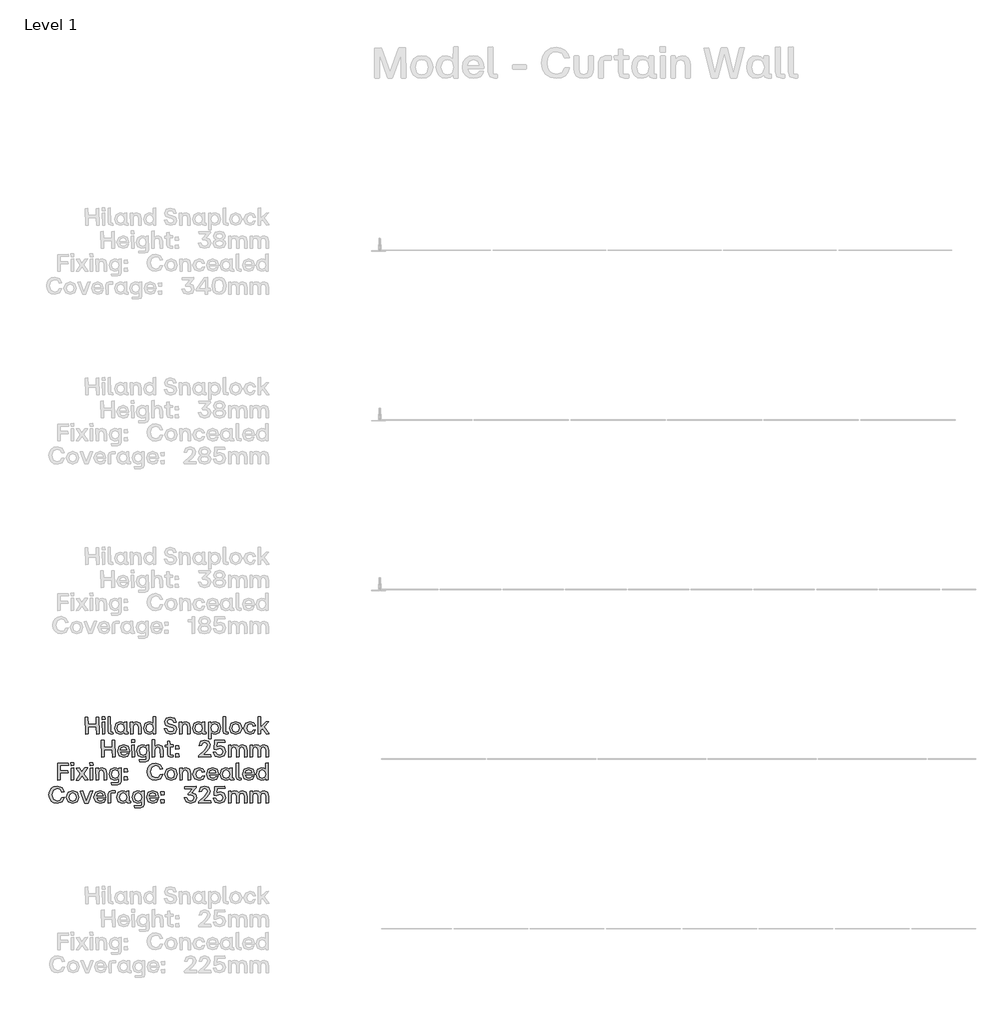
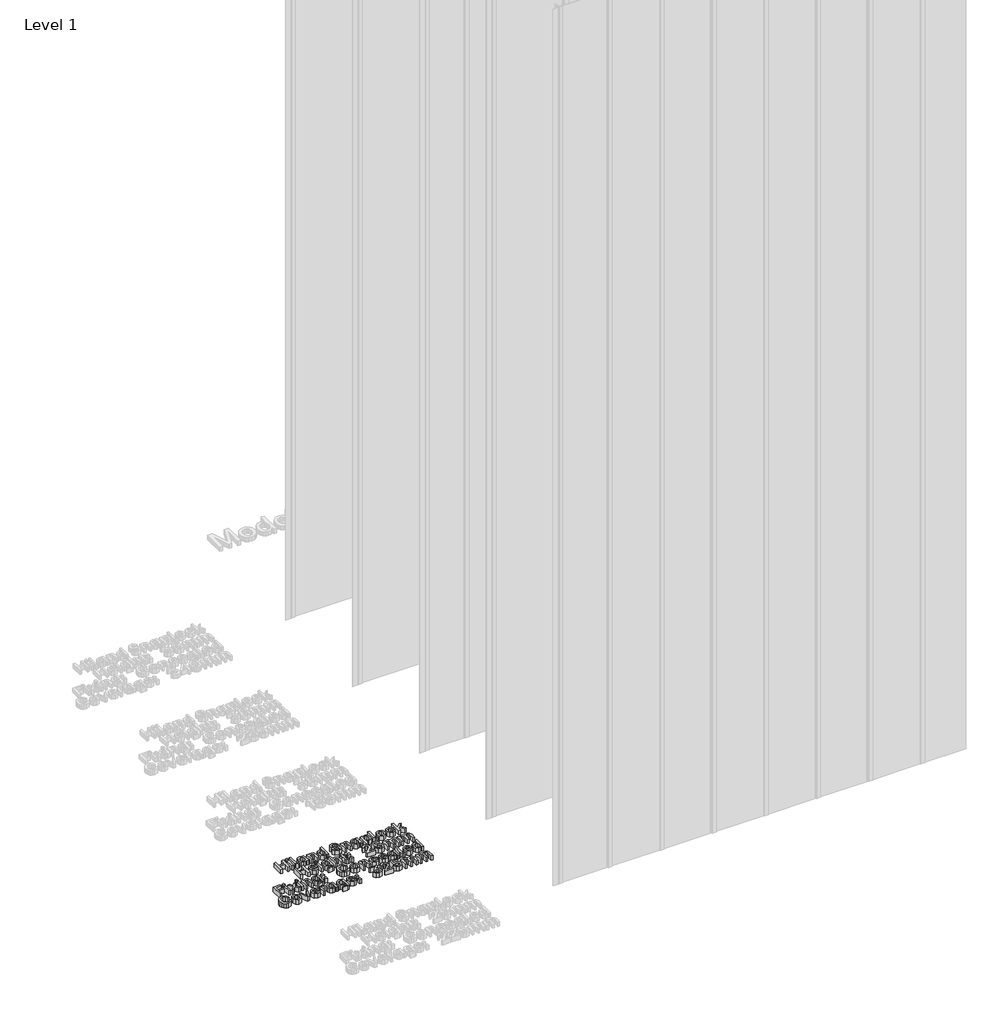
# One storey, part 6 of 64: 1 proxy.
"""IFC4 building model written with IfcOpenShell, lengths in millimetres."""

from ifc_helpers import new_model, si_unit, origin, origin_with_axes, place, context, project, spatial, polyline, outline, extrude, element, save

model = new_model("IFC4")

# Units and contexts
model_context = context("Model", 3, world=origin())
ifc_project = project(units=[si_unit("LENGTHUNIT", "METRE", prefix="MILLI")], contexts=[model_context])

# Site, building, storey
site = spatial("IfcSite", under=ifc_project)
building = spatial("IfcBuilding", under=site)
storey = spatial("IfcBuildingStorey", under=building, Name="Level 1", Elevation=0.0)

# Proxy
placement = place(None, origin())
element("IfcBuildingElementProxy", 1, Name="50mm", ObjectType="50mm", at=placement, inside=storey, context=model_context, shape_type="SweptSolid", body=[
    extrude(outline(polyline([(-811.1721134, -8433.5188866), (-811.8694452, -8411.5808277), (-835.7181932, -8411.5808277), (-835.7181932, -8432.8215548), (-843.2214836, -8433.5188866), (-843.9467087, -8384.2454206), (-836.457365, -8383.5201955), (-835.7181932, -8404.6075096), (-811.8694452, -8404.6075096), (-811.8694452, -8384.2454206), (-804.3801015, -8383.5201955), (-803.6827697, -8432.8215548), (-811.1721134, -8433.5188866)])), origin_with_axes(), (0.0, 0.0, 1.0), 20.0),
    extrude(outline(polyline([(-793.585405, -8433.5188866), (-794.3106301, -8397.8154977), (-787.1002191, -8397.1181659), (-786.4028873, -8432.8215548), (-793.585405, -8433.5188866)])), origin_with_axes(), (0.0, 0.0, 1.0), 20.0),
    extrude(outline(polyline([(-794.5198296, -8390.4516737), (-794.8684955, -8382.4044646), (-786.4726205, -8381.6652929), (-785.7334488, -8390.1030078), (-794.5198296, -8390.4516737)])), origin_with_axes(), (0.0, 0.0, 1.0), 20.0),
    extrude(outline(polyline([(-767.0031162, -8433.5188866), (-774.7016595, -8430.8690257), (-777.3515204, -8423.1565359), (-777.3515204, -8382.8228637), (-770.1411094, -8382.083692), (-769.4437776, -8427.2429003), (-762.7772854, -8427.2429003), (-762.0799536, -8432.8215548), (-767.0031162, -8433.5188866)])), origin_with_axes(), (0.0, 0.0, 1.0), 20.0),
    extrude(outline(polyline([(-741.9131175, -8433.9372857), (-753.6840786, -8428.8955767), (-758.0633224, -8415.3882594), (-753.6840786, -8401.7484491), (-741.9131175, -8396.6579269), (-735.2954386, -8398.2617901), (-730.3095161, -8402.6549805), (-729.9887435, -8397.8154977), (-722.8062258, -8397.1181659), (-722.0810007, -8427.2429003), (-718.1341027, -8427.2429003), (-717.4367709, -8432.8215548), (-723.4338245, -8433.5188866), (-728.0885143, -8432.2113895), (-729.6400776, -8428.288898), (-734.9955859, -8432.3334225), (-741.9131175, -8433.9372857)]), holes=[polyline([(-750.0021666, -8415.3882594), (-747.2477059, -8424.2792401), (-739.7234956, -8427.521833), (-732.3596717, -8424.2931867), (-729.7098108, -8415.3882594), (-732.3805916, -8406.392679), (-739.7234956, -8403.1152195), (-747.2477059, -8406.392679), (-750.0021666, -8415.3882594)])]), origin_with_axes(), (0.0, 0.0, 1.0), 20.0),
    extrude(outline(polyline([(-710.5750258, -8433.5188866), (-711.3002509, -8397.8154977), (-704.4385058, -8397.1181659), (-703.741174, -8402.6549805), (-698.5774319, -8398.1571903), (-691.9562663, -8396.6579269), (-682.3958472, -8400.8419178), (-679.083521, -8413.0870644), (-679.083521, -8432.8215548), (-686.3078786, -8433.5188866), (-687.0331037, -8413.0870644), (-688.9856328, -8405.7092939), (-695.1570194, -8403.3941522), (-701.3841925, -8405.7441604), (-703.3925081, -8413.0870644), (-703.3925081, -8432.8215548), (-710.5750258, -8433.5188866)])), origin_with_axes(), (0.0, 0.0, 1.0), 20.0),
    extrude(outline(polyline([(-656.2249842, -8433.9372857), (-667.9959452, -8428.8955767), (-672.375189, -8415.3882594), (-667.9959452, -8401.7484491), (-656.2249842, -8396.6579269), (-649.6073052, -8398.2617901), (-644.6213828, -8402.6549805), (-644.3006101, -8382.8228637), (-637.1180924, -8382.083692), (-636.3928674, -8432.8215548), (-643.2546124, -8433.5188866), (-643.9519442, -8428.0099653), (-649.3074526, -8432.3334225), (-656.2249842, -8433.9372857)]), holes=[polyline([(-664.3140332, -8415.3882594), (-661.5595725, -8424.2792401), (-654.0353623, -8427.521833), (-646.6715383, -8424.2931867), (-644.0216774, -8415.3882594), (-646.6924583, -8406.392679), (-654.0353623, -8403.1152195), (-661.5595725, -8406.392679), (-664.3140332, -8415.3882594)])]), origin_with_axes(), (0.0, 0.0, 1.0), 20.0),
    extrude(outline(polyline([(-592.2378169, -8433.9372857), (-605.8218406, -8429.823028), (-611.8049476, -8418.1078535), (-604.4411236, -8417.2989486), (-600.2780527, -8424.9417053), (-592.2378169, -8427.1034339), (-585.2854187, -8425.1160383), (-582.7959441, -8419.6001436), (-584.5183537, -8415.0186736), (-590.2852878, -8412.7383985), (-596.8820467, -8411.5808277), (-607.3629439, -8406.8180514), (-610.8565763, -8397.4668318), (-606.3797061, -8386.9022548), (-593.8835199, -8383.1017964), (-581.2897074, -8386.951068), (-575.6831596, -8397.8154977), (-583.0051436, -8398.610456), (-587.0287482, -8391.8672573), (-593.8835199, -8389.9635415), (-600.417519, -8391.706871), (-602.6699008, -8396.7973933), (-600.6615852, -8401.6299027), (-594.3716522, -8404.1612172), (-587.8167332, -8405.3048414), (-577.7193685, -8409.8932847), (-574.5953219, -8419.4606772), (-579.2883651, -8430.1019607), (-592.2378169, -8433.9372857)])), origin_with_axes(), (0.0, 0.0, 1.0), 20.0),
    extrude(outline(polyline([(-565.9763007, -8433.5188866), (-566.7015258, -8397.8154977), (-559.8397808, -8397.1181659), (-559.1424489, -8402.6549805), (-553.9787069, -8398.1571903), (-547.3575413, -8396.6579269), (-537.7971221, -8400.8419178), (-534.484796, -8413.0870644), (-534.484796, -8432.8215548), (-541.7091536, -8433.5188866), (-542.4343787, -8413.0870644), (-544.3869077, -8405.7092939), (-550.5582943, -8403.3941522), (-556.7854674, -8405.7441604), (-558.793783, -8413.0870644), (-558.793783, -8432.8215548), (-565.9763007, -8433.5188866)])), origin_with_axes(), (0.0, 0.0, 1.0), 20.0),
    extrude(outline(polyline([(-511.6262591, -8433.9372857), (-523.3972201, -8428.8955767), (-527.7764639, -8415.3882594), (-523.3972201, -8401.7484491), (-511.6262591, -8396.6579269), (-505.0085802, -8398.2617901), (-500.0226577, -8402.6549805), (-499.7018851, -8397.8154977), (-492.5193674, -8397.1181659), (-491.7941423, -8427.2429003), (-487.8472442, -8427.2429003), (-487.1499124, -8432.8215548), (-493.146966, -8433.5188866), (-497.8016559, -8432.2113895), (-499.3532192, -8428.288898), (-504.7087275, -8432.3334225), (-511.6262591, -8433.9372857)]), holes=[polyline([(-519.7153081, -8415.3882594), (-516.9608475, -8424.2792401), (-509.4366372, -8427.521833), (-502.0728132, -8424.2931867), (-499.4229523, -8415.3882594), (-502.0937332, -8406.392679), (-509.4366372, -8403.1152195), (-516.9608475, -8406.392679), (-519.7153081, -8415.3882594)])]), origin_with_axes(), (0.0, 0.0, 1.0), 20.0),
    extrude(outline(polyline([(-480.2881673, -8447.0750171), (-481.0133924, -8397.8154977), (-474.1516474, -8397.1181659), (-473.4543156, -8402.5852473), (-468.0988072, -8398.2617901), (-461.1812756, -8396.6579269), (-449.4103146, -8401.7135826), (-445.0310708, -8415.2487931), (-449.4103146, -8428.8607101), (-461.1812756, -8433.9372857), (-467.7989545, -8432.3334225), (-472.784877, -8427.9402321), (-473.1056497, -8446.3776853), (-480.2881673, -8447.0750171)]), holes=[polyline([(-473.3845824, -8415.2487931), (-470.7138015, -8424.2443735), (-463.3708975, -8427.521833), (-455.8466872, -8424.2443735), (-453.0922266, -8415.2487931), (-455.8466872, -8406.3578124), (-463.3708975, -8403.1152195), (-470.7347215, -8406.3368925), (-473.3845824, -8415.2487931)])]), origin_with_axes(), (0.0, 0.0, 1.0), 20.0),
    extrude(outline(polyline([(-427.8209216, -8433.5188866), (-435.5194648, -8430.8690257), (-438.1693257, -8423.1565359), (-438.1693257, -8382.8228637), (-430.9589148, -8382.083692), (-430.261583, -8427.2429003), (-423.5950908, -8427.2429003), (-422.897759, -8432.8215548), (-427.8209216, -8433.5188866)])), origin_with_axes(), (0.0, 0.0, 1.0), 20.0),
    extrude(outline(polyline([(-400.6807674, -8433.9372857), (-413.8394187, -8428.8118969), (-418.8811278, -8415.3882594), (-413.8254721, -8401.8530489), (-400.6807674, -8396.6579269), (-387.410543, -8401.8530489), (-382.3409407, -8415.3882594), (-387.410543, -8428.8118969), (-400.6807674, -8433.9372857)]), holes=[polyline([(-410.819972, -8415.3882594), (-408.1212979, -8424.2931867), (-400.6807674, -8427.521833), (-393.1426105, -8424.2792401), (-390.3881498, -8415.3882594), (-393.1286638, -8406.392679), (-400.6807674, -8403.1152195), (-408.1212979, -8406.392679), (-410.819972, -8415.3882594)])]), origin_with_axes(), (0.0, 0.0, 1.0), 20.0),
    extrude(outline(polyline([(-358.5898191, -8433.9372857), (-371.9228034, -8428.8955767), (-376.9296458, -8415.3882594), (-371.8530702, -8401.8530489), (-358.5898191, -8396.6579269), (-347.5161898, -8400.0957727), (-342.3001479, -8409.1820063), (-349.3153059, -8409.9490713), (-352.8856448, -8404.6493495), (-358.5898191, -8403.1152195), (-366.1488959, -8406.392679), (-368.86849, -8415.3882594), (-366.1349493, -8424.3141067), (-358.5898191, -8427.521833), (-352.7113119, -8426.0574362), (-349.733705, -8421.3155799), (-342.6488138, -8420.6461413), (-347.3069903, -8430.4994399), (-358.5898191, -8433.9372857)])), origin_with_axes(), (0.0, 0.0, 1.0), 20.0),
    extrude(outline(polyline([(-333.9042728, -8433.5188866), (-334.6294979, -8382.8228637), (-327.4190869, -8382.083692), (-326.7217551, -8412.8778649), (-311.4780817, -8397.4668318), (-303.5703389, -8397.1181659), (-316.2896712, -8412.0410667), (-302.2035685, -8432.6402485), (-309.8463252, -8433.5188866), (-321.5614997, -8417.2292154), (-326.7217551, -8422.2918444), (-326.7217551, -8432.8215548), (-333.9042728, -8433.5188866)])), origin_with_axes(), (0.0, 0.0, 1.0), 20.0),
    extrude(outline(polyline([(-763.8651231, -8501.3705811), (-764.5624549, -8479.4325222), (-788.4112029, -8479.4325222), (-788.4112029, -8500.6732493), (-795.9144933, -8501.3705811), (-796.6397184, -8452.0971151), (-789.1503747, -8451.37189), (-788.4112029, -8472.459204), (-764.5624549, -8472.459204), (-764.5624549, -8452.0971151), (-757.0731112, -8451.37189), (-756.3757794, -8500.6732493), (-763.8651231, -8501.3705811)])), origin_with_axes(), (0.0, 0.0, 1.0), 20.0),
    extrude(outline(polyline([(-730.7279152, -8501.7889802), (-744.1306327, -8496.7472711), (-749.1374751, -8483.2399539), (-744.1515527, -8469.586197), (-730.7279152, -8464.5096214), (-718.447902, -8469.5164638), (-713.9501118, -8483.1702207), (-713.9501118, -8485.0809099), (-741.0065862, -8485.8200816), (-737.9383262, -8492.8631329), (-730.7279152, -8495.3735275), (-724.9400612, -8494.0974102), (-721.9415344, -8490.520098), (-714.8566431, -8489.9343393), (-719.5148197, -8498.6998002), (-730.7279152, -8501.7889802)]), holes=[polyline([(-740.936853, -8480.0322275), (-721.7323348, -8480.0322275), (-724.3752224, -8473.3866554), (-730.7279152, -8470.966914), (-737.8197798, -8473.2681089), (-740.936853, -8480.0322275)])]), origin_with_axes(), (0.0, 0.0, 1.0), 20.0),
    extrude(outline(polyline([(-707.0465268, -8458.3033682), (-707.3951927, -8450.2561591), (-698.9993177, -8449.5169873), (-698.2601459, -8457.9547023), (-707.0465268, -8458.3033682)])), origin_with_axes(), (0.0, 0.0, 1.0), 20.0),
    extrude(outline(polyline([(-706.1121022, -8501.3705811), (-706.8373273, -8465.6671922), (-699.6269163, -8464.9698603), (-698.9295845, -8500.6732493), (-706.1121022, -8501.3705811)])), origin_with_axes(), (0.0, 0.0, 1.0), 20.0),
    extrude(outline(polyline([(-684.4390294, -8514.9267115), (-685.1782011, -8509.348057), (-663.937474, -8508.6507252), (-663.937474, -8495.7919266), (-669.2441691, -8500.185117), (-675.8618481, -8501.7889802), (-687.6328091, -8496.7124045), (-692.0120529, -8483.1004875), (-687.6328091, -8469.565277), (-675.8618481, -8464.5096214), (-668.9443165, -8466.1134845), (-663.8677409, -8470.4369418), (-663.5888081, -8465.6671922), (-656.7549563, -8464.9698603), (-656.0297313, -8504.9269733), (-658.609859, -8512.3675038), (-666.0294695, -8514.9267115), (-684.4390294, -8514.9267115)]), holes=[polyline([(-683.9508971, -8483.1004875), (-681.1964364, -8492.0960679), (-673.6722262, -8495.3735275), (-666.3293222, -8492.0960679), (-663.6585413, -8483.1004875), (-666.3084022, -8474.1885869), (-673.6722262, -8470.966914), (-681.1964364, -8474.2095069), (-683.9508971, -8483.1004875)])]), origin_with_axes(), (0.0, 0.0, 1.0), 20.0),
    extrude(outline(polyline([(-646.3089258, -8501.3705811), (-647.0341508, -8450.6745581), (-639.8237399, -8449.9353864), (-639.1264081, -8470.2277422), (-634.0393725, -8465.9391516), (-627.6901663, -8464.5096214), (-618.1297471, -8468.6936122), (-614.817421, -8480.9387589), (-614.817421, -8500.6732493), (-622.0417786, -8501.3705811), (-622.7670037, -8480.9387589), (-624.7195328, -8473.5609883), (-630.8909193, -8471.2458467), (-637.1180924, -8473.5958549), (-639.1264081, -8480.9387589), (-639.1264081, -8500.6732493), (-646.3089258, -8501.3705811)])), origin_with_axes(), (0.0, 0.0, 1.0), 20.0),
    extrude(outline(polyline([(-591.540485, -8501.3705811), (-599.2529749, -8498.7207202), (-601.9028358, -8491.0082303), (-601.9028358, -8471.2458467), (-608.109089, -8471.2458467), (-608.834314, -8465.6671922), (-601.9028358, -8464.9698603), (-601.9028358, -8454.9561755), (-594.6784782, -8454.2309504), (-593.9811464, -8464.9698603), (-585.1947655, -8464.9698603), (-584.4695404, -8470.506675), (-593.9811464, -8471.2458467), (-593.9811464, -8495.0945947), (-585.1947655, -8495.0945947), (-584.4695404, -8500.6732493), (-591.540485, -8501.3705811)])), origin_with_axes(), (0.0, 0.0, 1.0), 20.0),
    extrude(outline(polyline([(-577.0638766, -8477.7310326), (-577.7612084, -8468.1078535), (-568.2774957, -8467.3686818), (-567.5522706, -8477.0337007), (-577.0638766, -8477.7310326)])), origin_with_axes(), (0.0, 0.0, 1.0), 20.0),
    extrude(outline(polyline([(-577.4125425, -8501.0219152), (-577.7612084, -8491.747402), (-568.2774957, -8491.0082303), (-567.5522706, -8500.6732493), (-577.4125425, -8501.0219152)])), origin_with_axes(), (0.0, 0.0, 1.0), 20.0),
    extrude(outline(polyline([(-509.5761036, -8501.3705811), (-510.3013286, -8496.5868848), (-492.9377665, -8480.590093), (-485.7901154, -8472.6753769), (-483.8027197, -8465.3882594), (-485.783142, -8459.7084918), (-491.7244091, -8457.8152359), (-498.5931275, -8459.8932847), (-501.4452146, -8466.4621504), (-508.8787717, -8467.1594822), (-504.2903284, -8454.9631488), (-491.7244091, -8450.9534909), (-479.8976615, -8454.8236824), (-475.5742043, -8465.3882594), (-478.2589318, -8475.1648515), (-487.4288451, -8485.5690422), (-496.8846645, -8494.0764903), (-474.1516474, -8494.355423), (-473.4543156, -8500.6732493), (-509.5761036, -8501.3705811)])), origin_with_axes(), (0.0, 0.0, 1.0), 20.0),
    extrude(outline(polyline([(-448.1969572, -8501.7889802), (-461.3974485, -8498.0931215), (-467.2062225, -8487.3821049), (-459.8423985, -8486.5871466), (-455.634001, -8493.0200326), (-448.1969572, -8494.9551284), (-440.7912934, -8492.2704009), (-438.197219, -8484.6625108), (-440.7773467, -8477.3614467), (-448.3364236, -8474.8719721), (-458.6987744, -8478.8049235), (-463.5382572, -8478.5259908), (-462.4922594, -8452.0971151), (-432.8556573, -8451.37189), (-432.1304322, -8457.6757696), (-455.8397139, -8458.3731014), (-456.6346722, -8471.0366471), (-451.4604701, -8468.8400519), (-445.7562959, -8468.0381203), (-434.2015077, -8472.4661774), (-429.9965969, -8484.6625108), (-434.8081864, -8497.27027), (-448.1969572, -8501.7889802)])), origin_with_axes(), (0.0, 0.0, 1.0), 20.0),
    extrude(outline(polyline([(-421.3775756, -8501.3705811), (-422.1028007, -8465.6671922), (-415.2410557, -8464.9698603), (-414.5437239, -8470.506675), (-409.5578014, -8466.0088848), (-403.1074821, -8464.5096214), (-396.8210358, -8466.0088848), (-392.605665, -8470.506675), (-386.7829443, -8466.0646713), (-379.5376668, -8464.5096214), (-370.2631536, -8468.6796656), (-367.0554273, -8480.9387589), (-367.0554273, -8500.6732493), (-374.2658383, -8501.3705811), (-374.9631701, -8480.9387589), (-376.845966, -8473.5609883), (-382.8151263, -8471.2458467), (-388.7215268, -8473.5958549), (-390.6252426, -8480.9387589), (-390.6252426, -8500.6732493), (-397.8356536, -8501.3705811), (-398.5329854, -8480.9387589), (-400.4018347, -8473.5609883), (-406.3152085, -8471.2458467), (-412.2913421, -8473.5958549), (-414.195058, -8480.9387589), (-414.195058, -8500.6732493), (-421.3775756, -8501.3705811)])), origin_with_axes(), (0.0, 0.0, 1.0), 20.0),
    extrude(outline(polyline([(-358.0040603, -8501.3705811), (-358.7292854, -8465.6671922), (-351.8675404, -8464.9698603), (-351.1702086, -8470.506675), (-346.1842861, -8466.0088848), (-339.7339668, -8464.5096214), (-333.4475205, -8466.0088848), (-329.2321497, -8470.506675), (-323.409429, -8466.0646713), (-316.1641515, -8464.5096214), (-306.8896383, -8468.6796656), (-303.681912, -8480.9387589), (-303.681912, -8500.6732493), (-310.8923229, -8501.3705811), (-311.5896548, -8480.9387589), (-313.4724507, -8473.5609883), (-319.441611, -8471.2458467), (-325.3480115, -8473.5958549), (-327.2517273, -8480.9387589), (-327.2517273, -8500.6732493), (-334.4621383, -8501.3705811), (-335.1594701, -8480.9387589), (-337.0283194, -8473.5609883), (-342.9416931, -8471.2458467), (-348.9178268, -8473.5958549), (-350.8215426, -8480.9387589), (-350.8215426, -8500.6732493), (-358.0040603, -8501.3705811)])), origin_with_axes(), (0.0, 0.0, 1.0), 20.0),
    extrude(outline(polyline([(-925.3392781, -8569.2222755), (-926.0645031, -8519.9488095), (-894.4753719, -8519.2235844), (-893.7780401, -8525.527464), (-917.8359877, -8526.2247958), (-917.8359877, -8541.287163), (-895.9118755, -8541.287163), (-895.2145437, -8547.5631494), (-917.8359877, -8548.3023211), (-917.8359877, -8568.5249437), (-925.3392781, -8569.2222755)])), origin_with_axes(), (0.0, 0.0, 1.0), 20.0),
    extrude(outline(polyline([(-885.5216314, -8569.2222755), (-886.2468565, -8533.5188866), (-879.0364456, -8532.8215548), (-878.3391137, -8568.5249437), (-885.5216314, -8569.2222755)])), origin_with_axes(), (0.0, 0.0, 1.0), 20.0),
    extrude(outline(polyline([(-886.4560561, -8526.1550627), (-886.804722, -8518.1078535), (-878.4088469, -8517.3686818), (-877.6696752, -8525.8063967), (-886.4560561, -8526.1550627)])), origin_with_axes(), (0.0, 0.0, 1.0), 20.0),
    extrude(outline(polyline([(-871.4215821, -8569.2222755), (-858.6604099, -8550.7429824), (-870.8637167, -8533.658353), (-862.8722941, -8532.8215548), (-854.0859132, -8544.815662), (-845.8573978, -8533.2399539), (-837.7404555, -8532.8215548), (-849.3440569, -8549.9340775), (-836.303952, -8568.3436374), (-844.2953746, -8569.2222755), (-854.0161801, -8555.7916648), (-863.2906932, -8568.8038764), (-871.4215821, -8569.2222755)])), origin_with_axes(), (0.0, 0.0, 1.0), 20.0),
    extrude(outline(polyline([(-829.2887939, -8569.2222755), (-830.014019, -8533.5188866), (-822.803608, -8532.8215548), (-822.1062762, -8568.5249437), (-829.2887939, -8569.2222755)])), origin_with_axes(), (0.0, 0.0, 1.0), 20.0),
    extrude(outline(polyline([(-830.2232185, -8526.1550627), (-830.5718844, -8518.1078535), (-822.1760094, -8517.3686818), (-821.4368377, -8525.8063967), (-830.2232185, -8526.1550627)])), origin_with_axes(), (0.0, 0.0, 1.0), 20.0),
    extrude(outline(polyline([(-812.3296842, -8569.2222755), (-813.0549093, -8533.5188866), (-806.1931642, -8532.8215548), (-805.4958324, -8538.3583694), (-800.3320903, -8533.8605792), (-793.7109247, -8532.3613158), (-784.1505056, -8536.5453067), (-780.8381794, -8548.7904534), (-780.8381794, -8568.5249437), (-788.062537, -8569.2222755), (-788.7877621, -8548.7904534), (-790.7402912, -8541.4126828), (-796.9116778, -8539.0975411), (-803.1388509, -8541.4475493), (-805.1471665, -8548.7904534), (-805.1471665, -8568.5249437), (-812.3296842, -8569.2222755)])), origin_with_axes(), (0.0, 0.0, 1.0), 20.0),
    extrude(outline(polyline([(-766.5568239, -8582.778406), (-767.2959956, -8577.1997515), (-746.0552685, -8576.5024197), (-746.0552685, -8563.643621), (-751.3619636, -8568.0368114), (-757.9796426, -8569.6406746), (-769.7506036, -8564.564099), (-774.1298474, -8550.952182), (-769.7506036, -8537.4169715), (-757.9796426, -8532.3613158), (-751.0621109, -8533.965179), (-745.9855353, -8538.2886362), (-745.7066026, -8533.5188866), (-738.8727508, -8532.8215548), (-738.1475257, -8572.7786678), (-740.7276535, -8580.2191982), (-748.147264, -8582.778406), (-766.5568239, -8582.778406)]), holes=[polyline([(-766.0686916, -8550.952182), (-763.3142309, -8559.9477624), (-755.7900207, -8563.2252219), (-748.4471166, -8559.9477624), (-745.7763358, -8550.952182), (-748.4261967, -8542.0402814), (-755.7900207, -8538.8186084), (-763.3142309, -8542.0612013), (-766.0686916, -8550.952182)])]), origin_with_axes(), (0.0, 0.0, 1.0), 20.0),
    extrude(outline(polyline([(-729.1519453, -8568.8736096), (-729.5006112, -8559.5990965), (-720.0168986, -8558.8599248), (-719.2916735, -8568.5249437), (-729.1519453, -8568.8736096)])), origin_with_axes(), (0.0, 0.0, 1.0), 20.0),
    extrude(outline(polyline([(-728.8032794, -8545.582727), (-729.5006112, -8535.959548), (-720.0168986, -8535.2203762), (-719.2916735, -8544.8853952), (-728.8032794, -8545.582727)])), origin_with_axes(), (0.0, 0.0, 1.0), 20.0),
    extrude(outline(polyline([(-637.0483593, -8569.6406746), (-647.0550708, -8567.9269817), (-654.7605874, -8562.7859029), (-659.6767766, -8554.7160305), (-661.3155064, -8544.2159567), (-659.66283, -8533.8919591), (-654.7048008, -8525.7924501), (-646.9853376, -8520.5520015), (-637.0483593, -8518.8051853), (-622.8716035, -8523.4215219), (-615.9192053, -8535.7085085), (-623.2411893, -8536.5174134), (-628.4049314, -8528.3272513), (-637.0483593, -8525.8063967), (-648.7077472, -8530.743506), (-652.9475246, -8544.2159567), (-648.7286672, -8557.7999804), (-637.0483593, -8562.6673565), (-628.2340851, -8560.1813685), (-623.5480153, -8552.7234048), (-616.1284048, -8552.0679129), (-622.5926707, -8565.0382846), (-637.0483593, -8569.6406746)])), origin_with_axes(), (0.0, 0.0, 1.0), 20.0),
    extrude(outline(polyline([(-591.693898, -8569.6406746), (-604.8525494, -8564.5152858), (-609.8942584, -8551.0916483), (-604.8386027, -8537.5564378), (-591.693898, -8532.3613158), (-578.4236736, -8537.5564378), (-573.3540713, -8551.0916483), (-578.4236736, -8564.5152858), (-591.693898, -8569.6406746)]), holes=[polyline([(-601.8331026, -8551.0916483), (-599.1344285, -8559.9965756), (-591.693898, -8563.2252219), (-584.1557411, -8559.982629), (-581.4012805, -8551.0916483), (-584.1417945, -8542.0960679), (-591.693898, -8538.8186084), (-599.1344285, -8542.0960679), (-601.8331026, -8551.0916483)])]), origin_with_axes(), (0.0, 0.0, 1.0), 20.0),
    extrude(outline(polyline([(-565.083716, -8569.2222755), (-565.8089411, -8533.5188866), (-558.947196, -8532.8215548), (-558.2498642, -8538.3583694), (-553.0861221, -8533.8605792), (-546.4649565, -8532.3613158), (-536.9045374, -8536.5453067), (-533.5922113, -8548.7904534), (-533.5922113, -8568.5249437), (-540.8165689, -8569.2222755), (-541.5417939, -8548.7904534), (-543.494323, -8541.4126828), (-549.6657096, -8539.0975411), (-555.8928827, -8541.4475493), (-557.9011983, -8548.7904534), (-557.9011983, -8568.5249437), (-565.083716, -8569.2222755)])), origin_with_axes(), (0.0, 0.0, 1.0), 20.0),
    extrude(outline(polyline([(-508.5440525, -8569.6406746), (-521.8770368, -8564.5989656), (-526.8838792, -8551.0916483), (-521.8073036, -8537.5564378), (-508.5440525, -8532.3613158), (-497.4704233, -8535.7991616), (-492.2543813, -8544.8853952), (-499.2695393, -8545.6524602), (-502.8398782, -8540.3527384), (-508.5440525, -8538.8186084), (-516.1031293, -8542.0960679), (-518.8227234, -8551.0916483), (-516.0891827, -8560.0174956), (-508.5440525, -8563.2252219), (-502.6655453, -8561.7608251), (-499.6879384, -8557.0189688), (-492.6030472, -8556.3495302), (-497.2612237, -8566.2028288), (-508.5440525, -8569.6406746)])), origin_with_axes(), (0.0, 0.0, 1.0), 20.0),
    extrude(outline(polyline([(-468.3080068, -8569.6406746), (-481.7107242, -8564.5989656), (-486.7175667, -8551.0916483), (-481.7316442, -8537.4378914), (-468.3080068, -8532.3613158), (-456.0279935, -8537.3681582), (-451.5302033, -8551.0219152), (-451.5302033, -8552.9326043), (-478.5866777, -8553.6717761), (-475.5184177, -8560.7148274), (-468.3080068, -8563.2252219), (-462.5201527, -8561.9491047), (-459.5216259, -8558.3717925), (-452.4367347, -8557.7860338), (-457.0949112, -8566.5514947), (-468.3080068, -8569.6406746)]), holes=[polyline([(-478.5169445, -8547.883922), (-459.3124264, -8547.883922), (-461.9553139, -8541.2383498), (-468.3080068, -8538.8186084), (-475.3998713, -8541.1198034), (-478.5169445, -8547.883922)])]), origin_with_axes(), (0.0, 0.0, 1.0), 20.0),
    extrude(outline(polyline([(-430.4010493, -8569.6406746), (-442.1720104, -8564.5989656), (-446.5512542, -8551.0916483), (-442.1720104, -8537.4518381), (-430.4010493, -8532.3613158), (-423.7833704, -8533.965179), (-418.7974479, -8538.3583694), (-418.4766753, -8533.5188866), (-411.2941576, -8532.8215548), (-410.5689325, -8562.9462892), (-406.6220345, -8562.9462892), (-405.9247026, -8568.5249437), (-411.9217562, -8569.2222755), (-416.5764461, -8567.9147784), (-418.1280094, -8563.9922869), (-423.4835177, -8568.0368114), (-430.4010493, -8569.6406746)]), holes=[polyline([(-438.4900984, -8551.0916483), (-435.7356377, -8559.982629), (-428.2114274, -8563.2252219), (-420.8476035, -8559.9965756), (-418.1977426, -8551.0916483), (-420.8685234, -8542.0960679), (-428.2114274, -8538.8186084), (-435.7356377, -8542.0960679), (-438.4900984, -8551.0916483)])]), origin_with_axes(), (0.0, 0.0, 1.0), 20.0),
    extrude(outline(polyline([(-389.4397785, -8569.2222755), (-397.1383218, -8566.5724146), (-399.7881827, -8558.8599248), (-399.7881827, -8518.5262526), (-392.5777717, -8517.7870809), (-391.8804399, -8562.9462892), (-385.2139477, -8562.9462892), (-384.5166159, -8568.5249437), (-389.4397785, -8569.2222755)])), origin_with_axes(), (0.0, 0.0, 1.0), 20.0),
    extrude(outline(polyline([(-362.0904248, -8569.6406746), (-375.4931422, -8564.5989656), (-380.4999847, -8551.0916483), (-375.5140622, -8537.4378914), (-362.0904248, -8532.3613158), (-349.8104115, -8537.3681582), (-345.3126213, -8551.0219152), (-345.3126213, -8552.9326043), (-372.3690957, -8553.6717761), (-369.3008357, -8560.7148274), (-362.0904248, -8563.2252219), (-356.3025707, -8561.9491047), (-353.3040439, -8558.3717925), (-346.2191527, -8557.7860338), (-350.8773292, -8566.5514947), (-362.0904248, -8569.6406746)]), holes=[polyline([(-372.2993625, -8547.883922), (-353.0948444, -8547.883922), (-355.7377319, -8541.2383498), (-362.0904248, -8538.8186084), (-369.1822893, -8541.1198034), (-372.2993625, -8547.883922)])]), origin_with_axes(), (0.0, 0.0, 1.0), 20.0),
    extrude(outline(polyline([(-324.1834673, -8569.6406746), (-335.9544284, -8564.5989656), (-340.3336722, -8551.0916483), (-335.9544284, -8537.4518381), (-324.1834673, -8532.3613158), (-317.5657884, -8533.965179), (-312.5798659, -8538.3583694), (-312.2590933, -8518.5262526), (-305.0765756, -8517.7870809), (-304.3513505, -8568.5249437), (-311.2130956, -8569.2222755), (-311.9104274, -8563.7133542), (-317.2659357, -8568.0368114), (-324.1834673, -8569.6406746)]), holes=[polyline([(-332.2725164, -8551.0916483), (-329.5180557, -8559.982629), (-321.9938454, -8563.2252219), (-314.6300215, -8559.9965756), (-311.9801606, -8551.0916483), (-314.6509414, -8542.0960679), (-321.9938454, -8538.8186084), (-329.5180557, -8542.0960679), (-332.2725164, -8551.0916483)])]), origin_with_axes(), (0.0, 0.0, 1.0), 20.0),
    extrude(outline(polyline([(-927.1383941, -8637.4923691), (-937.1451057, -8635.7786761), (-944.8506222, -8630.6375973), (-949.7668115, -8622.5677249), (-951.4055413, -8612.0676511), (-949.7528649, -8601.7436536), (-944.7948357, -8593.6441446), (-937.0753725, -8588.403696), (-927.1383941, -8586.6568798), (-912.9616383, -8591.2732164), (-906.0092402, -8603.560203), (-913.3312242, -8604.3691079), (-918.4949663, -8596.1789457), (-927.1383941, -8593.6580912), (-938.7977821, -8598.5952004), (-943.0375595, -8612.0676511), (-938.818702, -8625.6516749), (-927.1383941, -8630.5190509), (-918.32412, -8628.033063), (-913.6380502, -8620.5750992), (-906.2184397, -8619.9196073), (-912.6827056, -8632.8899791), (-927.1383941, -8637.4923691)])), origin_with_axes(), (0.0, 0.0, 1.0), 20.0),
    extrude(outline(polyline([(-881.7839329, -8637.4923691), (-894.9425843, -8632.3669802), (-899.9842933, -8618.9433428), (-894.9286376, -8605.4081323), (-881.7839329, -8600.2130103), (-868.5137085, -8605.4081323), (-863.4441062, -8618.9433428), (-868.5137085, -8632.3669802), (-881.7839329, -8637.4923691)]), holes=[polyline([(-891.9231375, -8618.9433428), (-889.2244634, -8627.8482701), (-881.7839329, -8631.0769164), (-874.245776, -8627.8343234), (-871.4913153, -8618.9433428), (-874.2318294, -8609.9477624), (-881.7839329, -8606.6703029), (-889.2244634, -8609.9477624), (-891.9231375, -8618.9433428)])]), origin_with_axes(), (0.0, 0.0, 1.0), 20.0),
    extrude(outline(polyline([(-845.3413723, -8637.07397), (-859.7343009, -8601.5100474), (-852.4820501, -8600.6732493), (-841.0458083, -8630.5887841), (-830.2092719, -8601.2311147), (-822.8454479, -8600.6732493), (-835.9552861, -8636.5161045), (-845.3413723, -8637.07397)])), origin_with_axes(), (0.0, 0.0, 1.0), 20.0),
    extrude(outline(polyline([(-800.3495236, -8637.4923691), (-813.7522411, -8632.45066), (-818.7590835, -8618.9433428), (-813.773161, -8605.2895859), (-800.3495236, -8600.2130103), (-788.0695104, -8605.2198527), (-783.5717201, -8618.8736096), (-783.5717201, -8620.7842988), (-810.6281946, -8621.5234705), (-807.5599346, -8628.5665218), (-800.3495236, -8631.0769164), (-794.5616695, -8629.8007992), (-791.5631427, -8626.2234869), (-784.4782515, -8625.6377282), (-789.136428, -8634.4031891), (-800.3495236, -8637.4923691)]), holes=[polyline([(-810.5584614, -8615.7356165), (-791.3539432, -8615.7356165), (-793.9968308, -8609.0900443), (-800.3495236, -8606.6703029), (-807.4413882, -8608.9714978), (-810.5584614, -8615.7356165)])]), origin_with_axes(), (0.0, 0.0, 1.0), 20.0),
    extrude(outline(polyline([(-776.1102697, -8637.07397), (-776.8076015, -8610.9937601), (-774.1577406, -8603.3021902), (-766.4591974, -8600.6732493), (-756.3060462, -8600.6732493), (-755.6087144, -8606.6703029), (-768.8998588, -8607.3676347), (-768.8998588, -8636.3766382), (-776.1102697, -8637.07397)])), origin_with_axes(), (0.0, 0.0, 1.0), 20.0),
    extrude(outline(polyline([(-734.7724398, -8637.4923691), (-746.5434008, -8632.45066), (-750.9226446, -8618.9433428), (-746.5434008, -8605.3035325), (-734.7724398, -8600.2130103), (-728.1547608, -8601.8168734), (-723.1688384, -8606.2100639), (-722.8480657, -8601.3705811), (-715.665548, -8600.6732493), (-714.940323, -8630.7979836), (-710.9934249, -8630.7979836), (-710.2960931, -8636.3766382), (-716.2931467, -8637.07397), (-720.9478365, -8635.7664728), (-722.4993998, -8631.8439814), (-727.8549082, -8635.8885059), (-734.7724398, -8637.4923691)]), holes=[polyline([(-742.8614888, -8618.9433428), (-740.1070281, -8627.8343234), (-732.5828179, -8631.0769164), (-725.2189939, -8627.8482701), (-722.569133, -8618.9433428), (-725.2399139, -8609.9477624), (-732.5828179, -8606.6703029), (-740.1070281, -8609.9477624), (-742.8614888, -8618.9433428)])]), origin_with_axes(), (0.0, 0.0, 1.0), 20.0),
    extrude(outline(polyline([(-698.7203849, -8650.6301005), (-699.4595567, -8645.0514459), (-678.2188296, -8644.3541141), (-678.2188296, -8631.4953155), (-683.5255247, -8635.8885059), (-690.1432036, -8637.4923691), (-701.9141647, -8632.4157935), (-706.2934085, -8618.8038764), (-701.9141647, -8605.2686659), (-690.1432036, -8600.2130103), (-683.225672, -8601.8168734), (-678.1490964, -8606.1403307), (-677.8701637, -8601.3705811), (-671.0363119, -8600.6732493), (-670.3110868, -8640.6303622), (-672.8912145, -8648.0708927), (-680.310825, -8650.6301005), (-698.7203849, -8650.6301005)]), holes=[polyline([(-698.2322527, -8618.8038764), (-695.477792, -8627.7994568), (-687.9535817, -8631.0769164), (-680.6106777, -8627.7994568), (-677.9398969, -8618.8038764), (-680.5897578, -8609.8919758), (-687.9535817, -8606.6703029), (-695.477792, -8609.9128958), (-698.2322527, -8618.8038764)])]), origin_with_axes(), (0.0, 0.0, 1.0), 20.0),
    extrude(outline(polyline([(-645.0397819, -8637.4923691), (-658.4424993, -8632.45066), (-663.4493418, -8618.9433428), (-658.4634193, -8605.2895859), (-645.0397819, -8600.2130103), (-632.7597686, -8605.2198527), (-628.2619784, -8618.8736096), (-628.2619784, -8620.7842988), (-655.3184528, -8621.5234705), (-652.2501928, -8628.5665218), (-645.0397819, -8631.0769164), (-639.2519278, -8629.8007992), (-636.253401, -8626.2234869), (-629.1685098, -8625.6377282), (-633.8266863, -8634.4031891), (-645.0397819, -8637.4923691)]), holes=[polyline([(-655.2487196, -8615.7356165), (-636.0442015, -8615.7356165), (-638.687089, -8609.0900443), (-645.0397819, -8606.6703029), (-652.1316464, -8608.9714978), (-655.2487196, -8615.7356165)])]), origin_with_axes(), (0.0, 0.0, 1.0), 20.0),
    extrude(outline(polyline([(-620.800528, -8613.4344215), (-621.4978598, -8603.8112424), (-612.0141471, -8603.0720707), (-611.288922, -8612.7370896), (-620.800528, -8613.4344215)])), origin_with_axes(), (0.0, 0.0, 1.0), 20.0),
    extrude(outline(polyline([(-621.1491939, -8636.7253041), (-621.4978598, -8627.4507909), (-612.0141471, -8626.7116192), (-611.288922, -8636.3766382), (-621.1491939, -8636.7253041)])), origin_with_axes(), (0.0, 0.0, 1.0), 20.0),
    extrude(outline(polyline([(-533.6758911, -8637.4923691), (-547.0716352, -8633.4269246), (-552.8943559, -8621.6629369), (-545.5305319, -8620.854032), (-541.367461, -8628.4270555), (-533.6758911, -8630.6585173), (-526.5352133, -8628.2527225), (-523.8853524, -8621.6629369), (-526.6537597, -8614.7942185), (-535.3215942, -8612.5976233), (-540.7607823, -8612.5976233), (-541.4581141, -8608.5112589), (-528.0972366, -8594.355423), (-550.8023604, -8594.0764903), (-551.5275855, -8587.800504), (-517.8185656, -8587.0752789), (-517.1212338, -8591.8868684), (-530.0218724, -8605.7916648), (-519.2969091, -8610.9170536), (-515.6847303, -8621.6629369), (-520.5311864, -8633.238645), (-533.6758911, -8637.4923691)])), origin_with_axes(), (0.0, 0.0, 1.0), 20.0),
    extrude(outline(polyline([(-509.5761036, -8637.07397), (-510.3013286, -8632.2902737), (-492.9377665, -8616.2934819), (-485.7901154, -8608.3787658), (-483.8027197, -8601.0916483), (-485.783142, -8595.4118807), (-491.7244091, -8593.5186248), (-498.5931275, -8595.5966736), (-501.4452146, -8602.1655393), (-508.8787717, -8602.8628712), (-504.2903284, -8590.6665377), (-491.7244091, -8586.6568798), (-479.8976615, -8590.5270714), (-475.5742043, -8601.0916483), (-478.2589318, -8610.8682404), (-487.4288451, -8621.2724311), (-496.8846645, -8629.7798792), (-474.1516474, -8630.0588119), (-473.4543156, -8636.3766382), (-509.5761036, -8637.07397)])), origin_with_axes(), (0.0, 0.0, 1.0), 20.0),
    extrude(outline(polyline([(-448.1969572, -8637.4923691), (-461.3974485, -8633.7965104), (-467.2062225, -8623.0854938), (-459.8423985, -8622.2905355), (-455.634001, -8628.7234215), (-448.1969572, -8630.6585173), (-440.7912934, -8627.9737898), (-438.197219, -8620.3658997), (-440.7773467, -8613.0648356), (-448.3364236, -8610.575361), (-458.6987744, -8614.5083125), (-463.5382572, -8614.2293797), (-462.4922594, -8587.800504), (-432.8556573, -8587.0752789), (-432.1304322, -8593.3791585), (-455.8397139, -8594.0764903), (-456.6346722, -8606.740036), (-451.4604701, -8604.5434408), (-445.7562959, -8603.7415092), (-434.2015077, -8608.1695663), (-429.9965969, -8620.3658997), (-434.8081864, -8632.9736589), (-448.1969572, -8637.4923691)])), origin_with_axes(), (0.0, 0.0, 1.0), 20.0),
    extrude(outline(polyline([(-421.3775756, -8637.07397), (-422.1028007, -8601.3705811), (-415.2410557, -8600.6732493), (-414.5437239, -8606.2100639), (-409.5578014, -8601.7122737), (-403.1074821, -8600.2130103), (-396.8210358, -8601.7122737), (-392.605665, -8606.2100639), (-386.7829443, -8601.7680602), (-379.5376668, -8600.2130103), (-370.2631536, -8604.3830545), (-367.0554273, -8616.6421478), (-367.0554273, -8636.3766382), (-374.2658383, -8637.07397), (-374.9631701, -8616.6421478), (-376.845966, -8609.2643772), (-382.8151263, -8606.9492356), (-388.7215268, -8609.2992438), (-390.6252426, -8616.6421478), (-390.6252426, -8636.3766382), (-397.8356536, -8637.07397), (-398.5329854, -8616.6421478), (-400.4018347, -8609.2643772), (-406.3152085, -8606.9492356), (-412.2913421, -8609.2992438), (-414.195058, -8616.6421478), (-414.195058, -8636.3766382), (-421.3775756, -8637.07397)])), origin_with_axes(), (0.0, 0.0, 1.0), 20.0),
    extrude(outline(polyline([(-358.0040603, -8637.07397), (-358.7292854, -8601.3705811), (-351.8675404, -8600.6732493), (-351.1702086, -8606.2100639), (-346.1842861, -8601.7122737), (-339.7339668, -8600.2130103), (-333.4475205, -8601.7122737), (-329.2321497, -8606.2100639), (-323.409429, -8601.7680602), (-316.1641515, -8600.2130103), (-306.8896383, -8604.3830545), (-303.681912, -8616.6421478), (-303.681912, -8636.3766382), (-310.8923229, -8637.07397), (-311.5896548, -8616.6421478), (-313.4724507, -8609.2643772), (-319.441611, -8606.9492356), (-325.3480115, -8609.2992438), (-327.2517273, -8616.6421478), (-327.2517273, -8636.3766382), (-334.4621383, -8637.07397), (-335.1594701, -8616.6421478), (-337.0283194, -8609.2643772), (-342.9416931, -8606.9492356), (-348.9178268, -8609.2992438), (-350.8215426, -8616.6421478), (-350.8215426, -8636.3766382), (-358.0040603, -8637.07397)])), origin_with_axes(), (0.0, 0.0, 1.0), 20.0),
])

save(model, "model.ifc")
